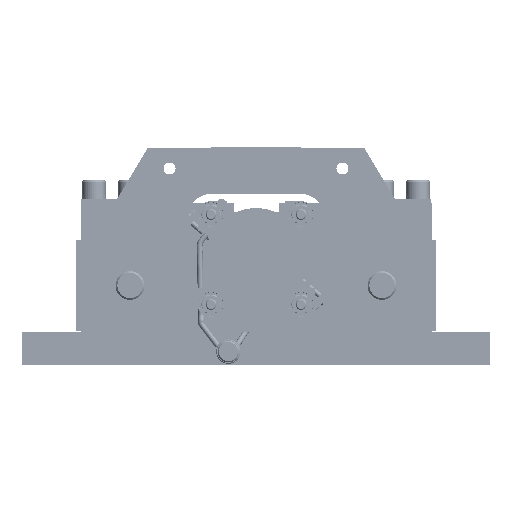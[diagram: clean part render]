
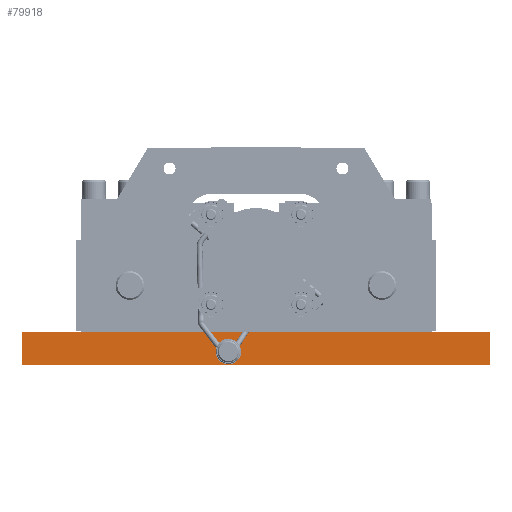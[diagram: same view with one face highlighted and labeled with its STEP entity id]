
A CAD part, front view. The second image highlights one B-rep face of the part: STEP entity #79918.
In plain terms, the highlighted planar face has unit normal (0, -1, 0).
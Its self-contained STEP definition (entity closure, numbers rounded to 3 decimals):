
#4389=PLANE('',#84686);
#7104=FACE_OUTER_BOUND('',#11656,.T.);
#11656=EDGE_LOOP('',(#50675,#50676,#50677,#50678));
#16758=LINE('',#114864,#21994);
#16791=LINE('',#115097,#22027);
#16794=LINE('',#115103,#22030);
#16795=LINE('',#115105,#22031);
#21994=VECTOR('',#92952,10.);
#22027=VECTOR('',#93221,10.);
#22030=VECTOR('',#93228,10.);
#22031=VECTOR('',#93231,10.);
#30827=VERTEX_POINT('',#114861);
#30828=VERTEX_POINT('',#114863);
#30909=VERTEX_POINT('',#115093);
#30911=VERTEX_POINT('',#115101);
#38647=EDGE_CURVE('',#30828,#30827,#16758,.T.);
#38758=EDGE_CURVE('',#30909,#30828,#16791,.T.);
#38761=EDGE_CURVE('',#30827,#30911,#16794,.T.);
#38762=EDGE_CURVE('',#30911,#30909,#16795,.T.);
#50675=ORIENTED_EDGE('',*,*,#38762,.T.);
#50676=ORIENTED_EDGE('',*,*,#38758,.T.);
#50677=ORIENTED_EDGE('',*,*,#38647,.T.);
#50678=ORIENTED_EDGE('',*,*,#38761,.T.);
#79918=ADVANCED_FACE('',(#7104),#4389,.T.);
#84686=AXIS2_PLACEMENT_3D('',#115104,#93229,#93230);
#92952=DIRECTION('',(1.,0.,0.));
#93221=DIRECTION('',(0.,0.,-1.));
#93228=DIRECTION('',(0.,0.,1.));
#93229=DIRECTION('center_axis',(0.,-1.,0.));
#93230=DIRECTION('ref_axis',(0.,0.,-1.));
#93231=DIRECTION('',(-1.,0.,0.));
#114861=CARTESIAN_POINT('',(130.,-69.85,-9.));
#114863=CARTESIAN_POINT('',(-130.,-69.85,-9.));
#114864=CARTESIAN_POINT('',(-130.,-69.85,-9.));
#115093=CARTESIAN_POINT('',(-130.,-69.85,9.));
#115097=CARTESIAN_POINT('',(-130.,-69.85,0.));
#115101=CARTESIAN_POINT('',(130.,-69.85,9.));
#115103=CARTESIAN_POINT('',(130.,-69.85,0.));
#115104=CARTESIAN_POINT('Origin',(130.,-69.85,0.));
#115105=CARTESIAN_POINT('',(-130.,-69.85,9.));
